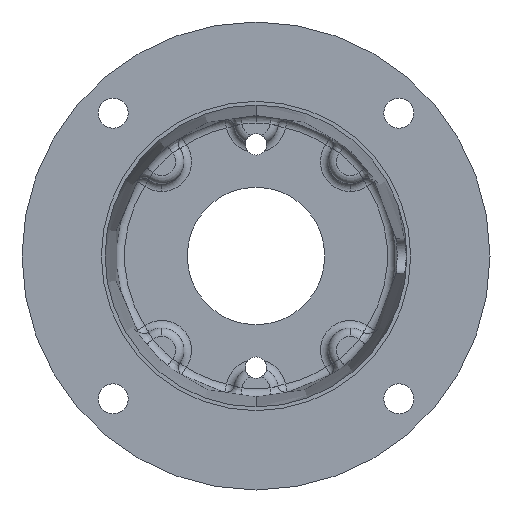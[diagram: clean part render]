
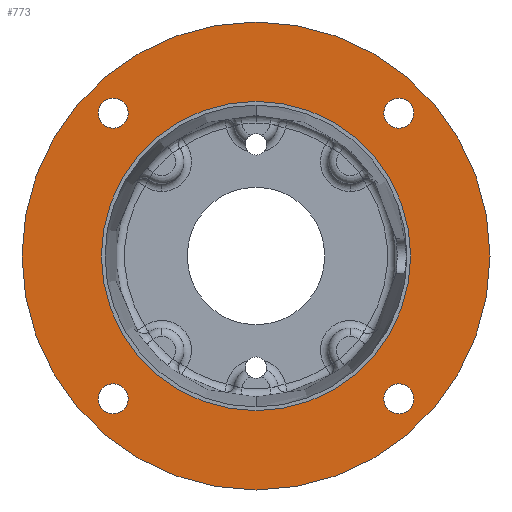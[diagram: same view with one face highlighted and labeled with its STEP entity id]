
A CAD part, front view. The second image highlights one B-rep face of the part: STEP entity #773.
In plain terms, the highlighted planar face has unit normal (0, -1, 0).
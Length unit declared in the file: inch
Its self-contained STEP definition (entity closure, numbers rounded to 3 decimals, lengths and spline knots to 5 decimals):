
#60 = VERTEX_POINT ( 'NONE', #1945 ) ;
#64 = EDGE_CURVE ( 'NONE', #60, #66, #1944, .T. ) ;
#66 = VERTEX_POINT ( 'NONE', #1938 ) ;
#68 = EDGE_CURVE ( 'NONE', #69, #95, #1937, .T. ) ;
#69 = VERTEX_POINT ( 'NONE', #1932 ) ;
#81 = EDGE_CURVE ( 'NONE', #88, #89, #1988, .T. ) ;
#88 = VERTEX_POINT ( 'NONE', #1974 ) ;
#89 = VERTEX_POINT ( 'NONE', #1973 ) ;
#95 = VERTEX_POINT ( 'NONE', #1962 ) ;
#287 = VERTEX_POINT ( 'NONE', #2400 ) ;
#300 = VERTEX_POINT ( 'NONE', #2386 ) ;
#304 = EDGE_CURVE ( 'NONE', #287, #300, #2438, .T. ) ;
#307 = EDGE_CURVE ( 'NONE', #309, #308, #2428, .T. ) ;
#308 = VERTEX_POINT ( 'NONE', #2423 ) ;
#309 = VERTEX_POINT ( 'NONE', #2422 ) ;
#487 = VERTEX_POINT ( 'NONE', #2936 ) ;
#489 = EDGE_CURVE ( 'NONE', #490, #487, #2931, .T. ) ;
#490 = VERTEX_POINT ( 'NONE', #2926 ) ;
#701 = EDGE_CURVE ( 'NONE', #487, #490, #3587, .T. ) ;
#753 = EDGE_CURVE ( 'NONE', #300, #287, #3670, .T. ) ;
#754 = ORIENTED_EDGE ( 'NONE', *, *, #304, .T. ) ;
#755 = EDGE_LOOP ( 'NONE', ( #756, #758 ) ) ;
#756 = ORIENTED_EDGE ( 'NONE', *, *, #757, .T. ) ;
#757 = EDGE_CURVE ( 'NONE', #89, #88, #3665, .T. ) ;
#758 = ORIENTED_EDGE ( 'NONE', *, *, #81, .T. ) ;
#759 = EDGE_LOOP ( 'NONE', ( #760, #762 ) ) ;
#760 = ORIENTED_EDGE ( 'NONE', *, *, #761, .T. ) ;
#761 = EDGE_CURVE ( 'NONE', #95, #69, #3660, .T. ) ;
#762 = ORIENTED_EDGE ( 'NONE', *, *, #68, .T. ) ;
#763 = EDGE_LOOP ( 'NONE', ( #764, #821 ) ) ;
#764 = ORIENTED_EDGE ( 'NONE', *, *, #765, .T. ) ;
#765 = EDGE_CURVE ( 'NONE', #66, #60, #3719, .T. ) ;
#773 = ADVANCED_FACE ( 'NONE', ( #3703, #3702, #3701, #3700, #3699, #3698 ), #3697, .F. ) ;
#774 = EDGE_LOOP ( 'NONE', ( #775, #777 ) ) ;
#775 = ORIENTED_EDGE ( 'NONE', *, *, #776, .F. ) ;
#776 = EDGE_CURVE ( 'NONE', #308, #309, #3695, .T. ) ;
#777 = ORIENTED_EDGE ( 'NONE', *, *, #307, .F. ) ;
#778 = EDGE_LOOP ( 'NONE', ( #779, #754 ) ) ;
#779 = ORIENTED_EDGE ( 'NONE', *, *, #753, .T. ) ;
#821 = ORIENTED_EDGE ( 'NONE', *, *, #64, .T. ) ;
#822 = EDGE_LOOP ( 'NONE', ( #823, #824 ) ) ;
#823 = ORIENTED_EDGE ( 'NONE', *, *, #489, .T. ) ;
#824 = ORIENTED_EDGE ( 'NONE', *, *, #701, .T. ) ;
#1932 = CARTESIAN_POINT ( 'NONE',  ( -2.07889, 0., 1.86014 ) ) ;
#1933 = DIRECTION ( 'NONE',  ( 0., 0., 1. ) ) ;
#1934 = DIRECTION ( 'NONE',  ( 0., 1., 0. ) ) ;
#1935 = CARTESIAN_POINT ( 'NONE',  ( -2.07889, 0., 2.07889 ) ) ;
#1936 = AXIS2_PLACEMENT_3D ( 'NONE', #1935, #1934, #1933 ) ;
#1937 = CIRCLE ( 'NONE', #1936, 0.21875 ) ;
#1938 = CARTESIAN_POINT ( 'NONE',  ( 2.07889, 0., 2.29764 ) ) ;
#1940 = DIRECTION ( 'NONE',  ( 0., 0., 1. ) ) ;
#1941 = DIRECTION ( 'NONE',  ( 0., 1., 0. ) ) ;
#1942 = CARTESIAN_POINT ( 'NONE',  ( 2.07889, 0., 2.07889 ) ) ;
#1943 = AXIS2_PLACEMENT_3D ( 'NONE', #1942, #1941, #1940 ) ;
#1944 = CIRCLE ( 'NONE', #1943, 0.21875 ) ;
#1945 = CARTESIAN_POINT ( 'NONE',  ( 2.07889, 0., 1.86014 ) ) ;
#1962 = CARTESIAN_POINT ( 'NONE',  ( -2.07889, 0., 2.29764 ) ) ;
#1973 = CARTESIAN_POINT ( 'NONE',  ( -2.07889, 0., -1.86014 ) ) ;
#1974 = CARTESIAN_POINT ( 'NONE',  ( -2.07889, 0., -2.29764 ) ) ;
#1984 = DIRECTION ( 'NONE',  ( 0., 0., 1. ) ) ;
#1985 = DIRECTION ( 'NONE',  ( 0., 1., 0. ) ) ;
#1986 = CARTESIAN_POINT ( 'NONE',  ( -2.07889, 0., -2.07889 ) ) ;
#1987 = AXIS2_PLACEMENT_3D ( 'NONE', #1986, #1985, #1984 ) ;
#1988 = CIRCLE ( 'NONE', #1987, 0.21875 ) ;
#2386 = CARTESIAN_POINT ( 'NONE',  ( 2.07889, 0., -1.86014 ) ) ;
#2400 = CARTESIAN_POINT ( 'NONE',  ( 2.07889, 0., -2.29764 ) ) ;
#2422 = CARTESIAN_POINT ( 'NONE',  ( 0., 0., 2.2505 ) ) ;
#2423 = CARTESIAN_POINT ( 'NONE',  ( 0., 0., -2.2505 ) ) ;
#2424 = DIRECTION ( 'NONE',  ( 0., 0., -1. ) ) ;
#2425 = DIRECTION ( 'NONE',  ( 0., -1., 0. ) ) ;
#2426 = CARTESIAN_POINT ( 'NONE',  ( 0., 0., 0. ) ) ;
#2427 = AXIS2_PLACEMENT_3D ( 'NONE', #2426, #2425, #2424 ) ;
#2428 = CIRCLE ( 'NONE', #2427, 2.2505 ) ;
#2434 = DIRECTION ( 'NONE',  ( 0., 0., 1. ) ) ;
#2435 = DIRECTION ( 'NONE',  ( 0., 1., 0. ) ) ;
#2436 = CARTESIAN_POINT ( 'NONE',  ( 2.07889, 0., -2.07889 ) ) ;
#2437 = AXIS2_PLACEMENT_3D ( 'NONE', #2436, #2435, #2434 ) ;
#2438 = CIRCLE ( 'NONE', #2437, 0.21875 ) ;
#2926 = CARTESIAN_POINT ( 'NONE',  ( 0., 0., -3.405 ) ) ;
#2927 = DIRECTION ( 'NONE',  ( 0., 0., -1. ) ) ;
#2928 = DIRECTION ( 'NONE',  ( 0., -1., 0. ) ) ;
#2929 = CARTESIAN_POINT ( 'NONE',  ( 0., 0., 0. ) ) ;
#2930 = AXIS2_PLACEMENT_3D ( 'NONE', #2929, #2928, #2927 ) ;
#2931 = CIRCLE ( 'NONE', #2930, 3.405 ) ;
#2936 = CARTESIAN_POINT ( 'NONE',  ( 0., 0., 3.405 ) ) ;
#3583 = DIRECTION ( 'NONE',  ( 0., 0., -1. ) ) ;
#3584 = DIRECTION ( 'NONE',  ( 0., -1., 0. ) ) ;
#3585 = CARTESIAN_POINT ( 'NONE',  ( 0., 0., 0. ) ) ;
#3586 = AXIS2_PLACEMENT_3D ( 'NONE', #3585, #3584, #3583 ) ;
#3587 = CIRCLE ( 'NONE', #3586, 3.405 ) ;
#3656 = DIRECTION ( 'NONE',  ( 0., 0., 1. ) ) ;
#3657 = DIRECTION ( 'NONE',  ( 0., 1., 0. ) ) ;
#3658 = CARTESIAN_POINT ( 'NONE',  ( -2.07889, 0., 2.07889 ) ) ;
#3659 = AXIS2_PLACEMENT_3D ( 'NONE', #3658, #3657, #3656 ) ;
#3660 = CIRCLE ( 'NONE', #3659, 0.21875 ) ;
#3661 = DIRECTION ( 'NONE',  ( 0., 0., 1. ) ) ;
#3662 = DIRECTION ( 'NONE',  ( 0., 1., 0. ) ) ;
#3663 = CARTESIAN_POINT ( 'NONE',  ( -2.07889, 0., -2.07889 ) ) ;
#3664 = AXIS2_PLACEMENT_3D ( 'NONE', #3663, #3662, #3661 ) ;
#3665 = CIRCLE ( 'NONE', #3664, 0.21875 ) ;
#3666 = DIRECTION ( 'NONE',  ( 0., 0., 1. ) ) ;
#3667 = DIRECTION ( 'NONE',  ( 0., 1., 0. ) ) ;
#3668 = CARTESIAN_POINT ( 'NONE',  ( 2.07889, 0., -2.07889 ) ) ;
#3669 = AXIS2_PLACEMENT_3D ( 'NONE', #3668, #3667, #3666 ) ;
#3670 = CIRCLE ( 'NONE', #3669, 0.21875 ) ;
#3688 = DIRECTION ( 'NONE',  ( 0., 0., -1. ) ) ;
#3689 = DIRECTION ( 'NONE',  ( 0., -1., 0. ) ) ;
#3690 = CARTESIAN_POINT ( 'NONE',  ( 0., 0., 0. ) ) ;
#3691 = AXIS2_PLACEMENT_3D ( 'NONE', #3690, #3689, #3688 ) ;
#3692 = DIRECTION ( 'NONE',  ( 0., 0., 1. ) ) ;
#3693 = DIRECTION ( 'NONE',  ( 0., 1., 0. ) ) ;
#3694 = AXIS2_PLACEMENT_3D ( 'NONE', #3696, #3693, #3692 ) ;
#3695 = CIRCLE ( 'NONE', #3691, 2.2505 ) ;
#3696 = CARTESIAN_POINT ( 'NONE',  ( -2.20315, 0., 0. ) ) ;
#3697 = PLANE ( 'NONE',  #3694 ) ;
#3698 = FACE_OUTER_BOUND ( 'NONE', #822, .T. ) ;
#3699 = FACE_BOUND ( 'NONE', #763, .T. ) ;
#3700 = FACE_BOUND ( 'NONE', #759, .T. ) ;
#3701 = FACE_BOUND ( 'NONE', #755, .T. ) ;
#3702 = FACE_BOUND ( 'NONE', #778, .T. ) ;
#3703 = FACE_BOUND ( 'NONE', #774, .T. ) ;
#3715 = DIRECTION ( 'NONE',  ( 0., 0., 1. ) ) ;
#3716 = DIRECTION ( 'NONE',  ( 0., 1., 0. ) ) ;
#3717 = CARTESIAN_POINT ( 'NONE',  ( 2.07889, 0., 2.07889 ) ) ;
#3718 = AXIS2_PLACEMENT_3D ( 'NONE', #3717, #3716, #3715 ) ;
#3719 = CIRCLE ( 'NONE', #3718, 0.21875 ) ;
